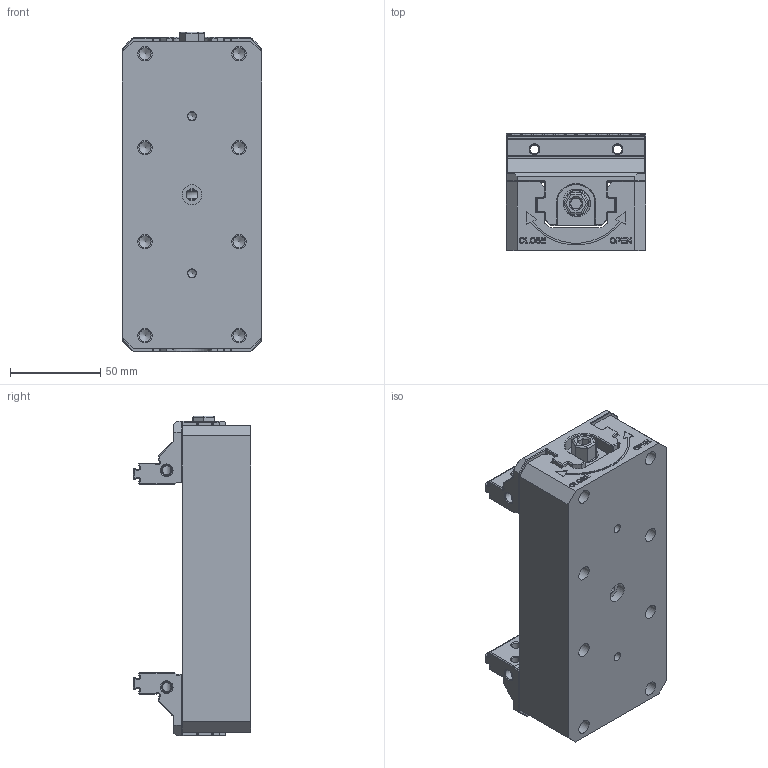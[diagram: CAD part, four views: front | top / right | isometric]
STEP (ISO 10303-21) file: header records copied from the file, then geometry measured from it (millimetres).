
FILE_DESCRIPTION(/* description */ (''),/* implementation_level */ '2;1');
FILE_NAME(/* name */ '',/* time_stamp */ '2019-12-31T10:50:14+08:00',/* author */ (''),/* organization */ (''),/* preprocessor_version */ 'ST-DEVELOPER v11',/* originating_system */ 'SIEMENS PLM Software NX 7.0',/* authorisation */ '');
FILE_SCHEMA (('CONFIG_CONTROL_DESIGN'));
Length unit declared in the file: millimetre
Products named in the file (1): Admi46A2bpbr
Bounding box: 77 x 65 x 177 mm (x, y, z)
Volume: 457516.4 mm3; surface area: 99711.2 mm2
Topology: 4 solids, 4 shells, 1139 faces, 3139 edges, 2038 vertices
Faces by surface type: plane 654, cylinder 358, cone 82, extrusion 18, bspline 16, torus 11
Full cylindrical faces by diameter (mm): 4.2 x8, 4.5 x2, 5 x22, 6 x4, 6.5 x1, 6.7 x8, 8 x8, 11 x1, 14 x2, 16 x2, 20 x2
Entity records: 42158 total; most frequent: CARTESIAN_POINT 14371, ORIENTED_EDGE 5854, DIRECTION 5408, EDGE_CURVE 2927, VERTEX_POINT 1971, VECTOR 1856, LINE 1838, AXIS2_PLACEMENT_3D 1776
